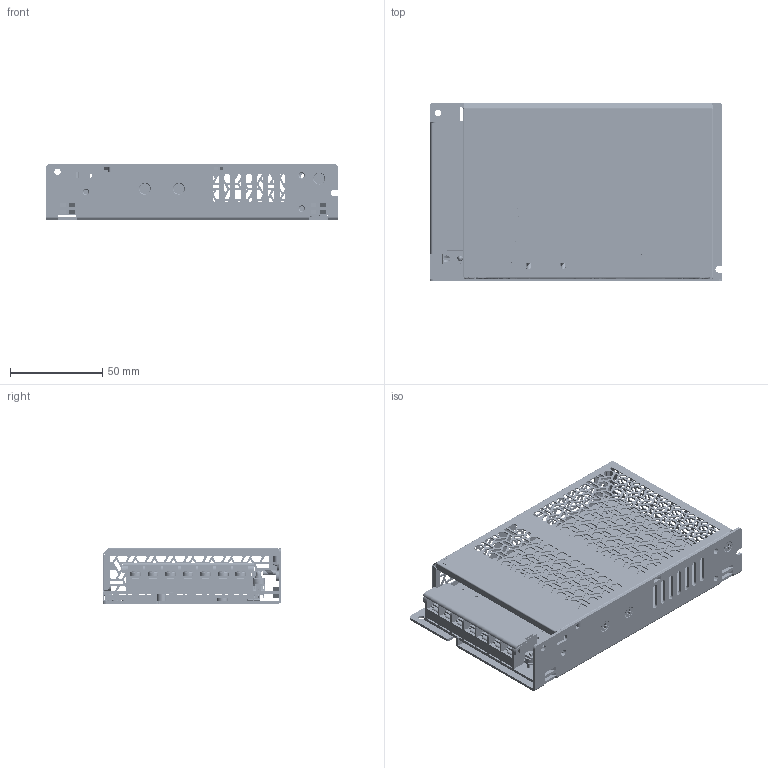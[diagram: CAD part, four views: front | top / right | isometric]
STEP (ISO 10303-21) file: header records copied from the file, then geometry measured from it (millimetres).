
FILE_DESCRIPTION((''),'2;1');
FILE_NAME('C','2022-08-26T',('pe202'),(''),'PRO/ENGINEER BY PARAMETRIC TECHNOLOGY CORPORATION, 2014000','PRO/ENGINEER BY PARAMETRIC TECHNOLOGY CORPORATION, 2014000','');
FILE_SCHEMA(('CONFIG_CONTROL_DESIGN','GEOMETRIC_VALIDATION_PROPERTIES_MIM'));
Products named in the file (1): C
Bounding box: 159 x 97 x 30 mm (x, y, z)
Volume: 48149.3 mm3; surface area: 114505.5 mm2
Topology: 6 solids, 39 shells, 7717 faces, 22119 edges, 14448 vertices
Faces by surface type: bspline 4590, revolution 3127
Entity records: 340662 total; most frequent: CARTESIAN_POINT 139027, ORIENTED_EDGE 44132, DIRECTION 30003, EDGE_CURVE 22103, VECTOR 14634, LINE 14634, VERTEX_POINT 14447, EDGE_LOOP 9166
